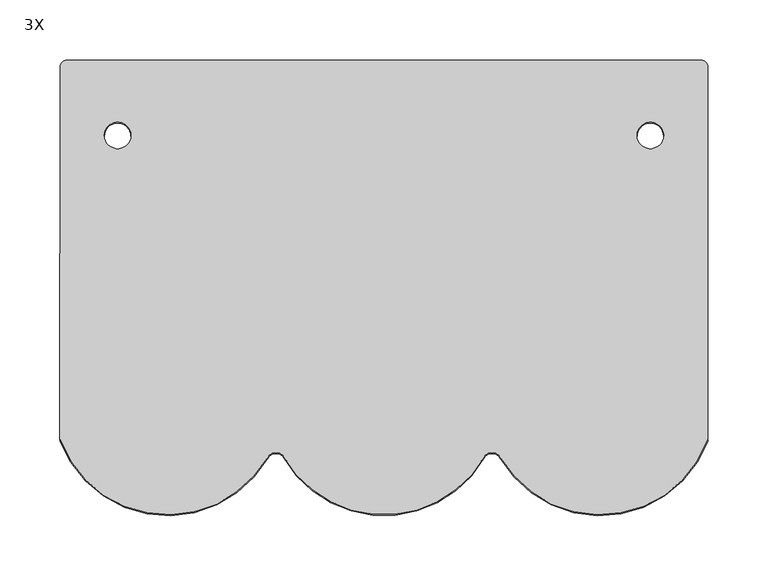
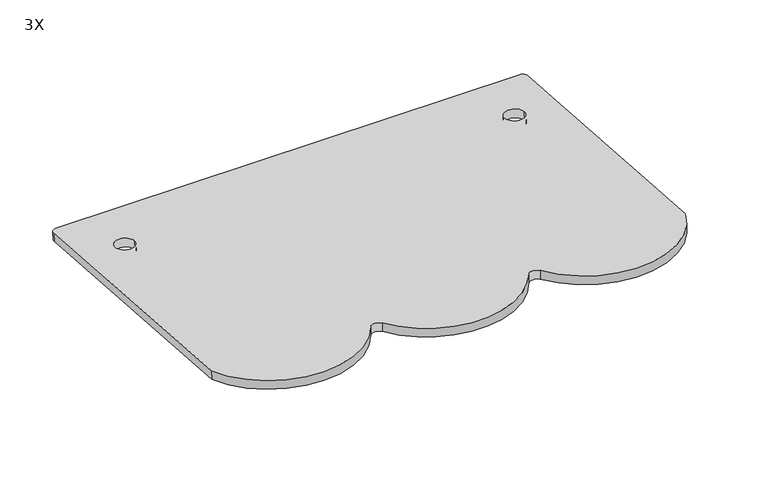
"""IFC4 building model written with IfcOpenShell, lengths in millimetres: proxy geometry, ML PhotonRoof Beaver Anthracite Premium : 3X."""

from ifc_helpers import new_model, si_unit, point, frame, frame_2d, origin, place, context, project, spatial, polyline, circle_curve, trimmed, segment, composite_curve, outline, extrude, source, transform, mapped, element, save


def proxy_3x_219e119c(model_context):
    return source(origin(), model_context, "Body", "SweptSolid", [
        extrude(outline(composite_curve([segment(polyline([(-5.9999999, -6.0), (-5.9999999, 522.0)]), True, "CONTINUOUS"), segment(trimmed(circle_curve(frame_2d((0.0, 522.0)), 6.0), [point((-5.9999999, 522.0))], [point((0.0, 528.0))], False, "CARTESIAN"), True, "CONTINUOUS"), segment(polyline([(0.0, 528.0), (311.4065862, 528.0)]), True, "CONTINUOUS"), segment(trimmed(circle_curve(frame_2d((278.0, 438.0)), 96.0), [point((311.4065862, 528.0))], [point((325.4030407, 354.5197525))], False, "CARTESIAN"), True, "CONTINUOUS"), segment(trimmed(circle_curve(frame_2d((330.0390765, 348.0)), 8.0), [point((325.4030407, 354.5197525))], [point((325.4030407, 341.4802475))], True, "CARTESIAN"), True, "CONTINUOUS"), segment(trimmed(circle_curve(frame_2d((278.0, 258.0)), 96.0), [point((325.4030407, 341.4802475))], [point((325.4030407, 174.5197525))], False, "CARTESIAN"), True, "CONTINUOUS"), segment(trimmed(circle_curve(frame_2d((330.0390765, 168.0)), 8.0), [point((325.4030407, 174.5197525))], [point((325.4030407, 161.4802475))], True, "CARTESIAN"), True, "CONTINUOUS"), segment(trimmed(circle_curve(frame_2d((278.0, 78.0)), 96.0), [point((325.4030407, 161.4802475))], [point((311.4065862, -12.0))], False, "CARTESIAN"), True, "CONTINUOUS"), segment(polyline([(311.4065862, -12.0), (0.0, -12.0)]), True, "CONTINUOUS"), segment(trimmed(circle_curve(frame_2d((0.0, -6.0)), 6.0), [point((0.0, -12.0))], [point((-5.9999999, -6.0))], False, "CARTESIAN"), True, "CONTINUOUS")], self_intersect=False), holes=[composite_curve([segment(trimmed(circle_curve(frame_2d((57.0000001, 480.0)), 11.0), [point((57.0000001, 491.0))], [point((57.0000001, 469.0))], True, "CARTESIAN"), True, "CONTINUOUS"), segment(trimmed(circle_curve(frame_2d((57.0000001, 480.0)), 11.0), [point((57.0000001, 469.0))], [point((57.0000001, 491.0))], True, "CARTESIAN"), True, "CONTINUOUS")], self_intersect=False), composite_curve([segment(trimmed(circle_curve(frame_2d((57.0000001, 36.0)), 11.0), [point((57.0000001, 25.0))], [point((57.0000001, 47.0))], True, "CARTESIAN"), True, "CONTINUOUS"), segment(trimmed(circle_curve(frame_2d((57.0000001, 36.0)), 11.0), [point((57.0000001, 47.0))], [point((57.0000001, 25.0))], True, "CARTESIAN"), True, "CONTINUOUS")], self_intersect=False)]), frame((-78.0, 56.6804717, -4.0224851), z_axis=(0.0, 0.0707897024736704, 0.997491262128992), x_axis=(0.0, -0.997491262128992, 0.0707897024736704)), (0.0, 0.0, 1.0), 10.0),
        extrude(outline(polyline([(65.625, 0.0), (65.625, -23.75), (-13.759513, -23.75), (-13.759513, 0.0), (65.625, 0.0)])), frame((154.0672565, 45.7146537, -17.0859147), z_axis=(0.0, 0.0707897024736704, 0.997491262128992), x_axis=(1.0, 0.0, 0.0)), (0.0, 0.0, 1.0), 13.8069239),
    ])


if __name__ == "__main__":
    model = new_model("IFC4")
    model_context = context("Model", 3, world=origin())
    ifc_project = project(units=[si_unit("LENGTHUNIT", "METRE", prefix="MILLI")], contexts=[model_context])
    site = spatial("IfcSite", under=ifc_project)
    building = spatial("IfcBuilding", under=site)
    placement = place(None, origin())
    proxy_3x_shape = proxy_3x_219e119c(model_context)
    element("IfcBuildingElementProxy", 1, Name="ML PhotonRoof Beaver Anthracite Premium : 3X", ObjectType="ML PhotonRoof Beaver Anthracite Premium : 3X", at=placement, inside=building, context=model_context, shape_type="MappedRepresentation", body=[
        mapped(proxy_3x_shape, transform((0.0, 0.0, 0.0), x_axis=(1.0, 0.0, 0.0), y_axis=(0.0, 1.0, 0.0), z_axis=(0.0, 0.0, 1.0))),
    ])
    save(model, "model.ifc")
